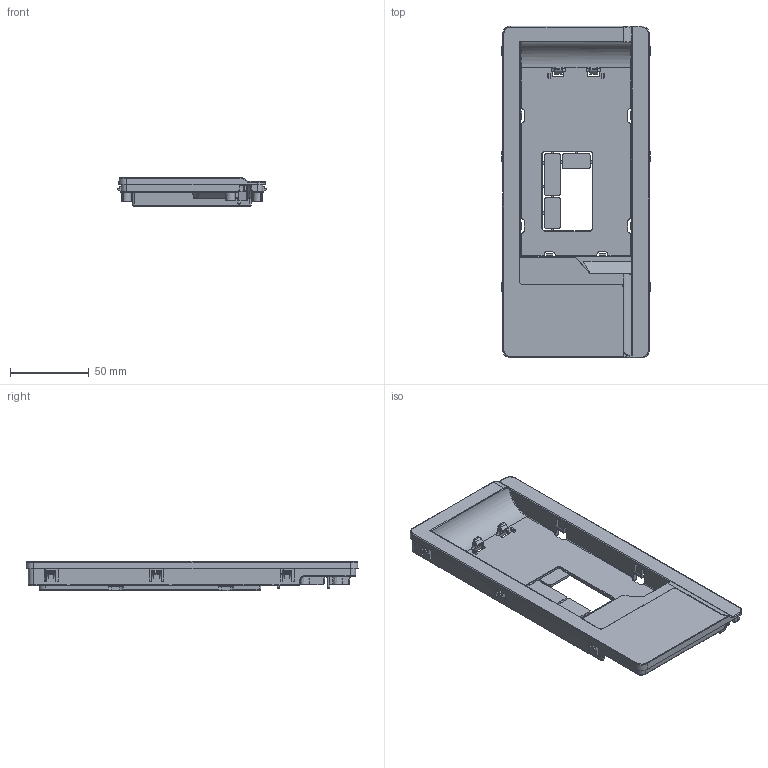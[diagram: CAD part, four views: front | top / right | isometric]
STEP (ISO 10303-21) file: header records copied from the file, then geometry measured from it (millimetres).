
FILE_DESCRIPTION(('STEP AP203'), '1');
FILE_NAME('Ðàìêà ìîíòàæíàÿ _ INPRIME-MF', '', ('UNSPECIFIED'), ('UNSPECIFIED'), 'C3D Converter', 'C3D Toolkit', '');
FILE_SCHEMA(('CONFIG_CONTROL_DESIGN'));
Length unit declared in the file: millimetre
Products named in the file (1): INPRIME-MF
Bounding box: 94.21 x 211 x 18.5 mm (x, y, z)
Volume: 2354.4 mm3; surface area: 71397.4 mm2
Topology: 1 solids, 2 shells, 835 faces, 2419 edges, 1565 vertices
Faces by surface type: plane 461, cylinder 243, bspline 82, cone 23, torus 20, sphere 6
Entity records: 51607 total; most frequent: CARTESIAN_POINT 24498, ORIENTED_EDGE 4755, DIRECTION 3595, EDGE_CURVE 2380, VERTEX_POINT 1565, LINE 1523, VECTOR 1523, AXIS2_PLACEMENT_3D 1036
